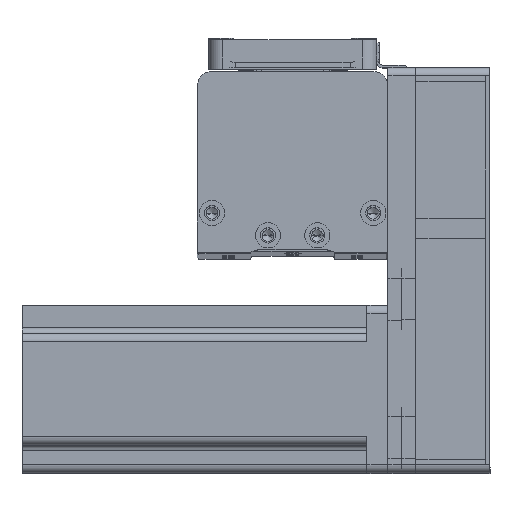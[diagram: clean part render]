
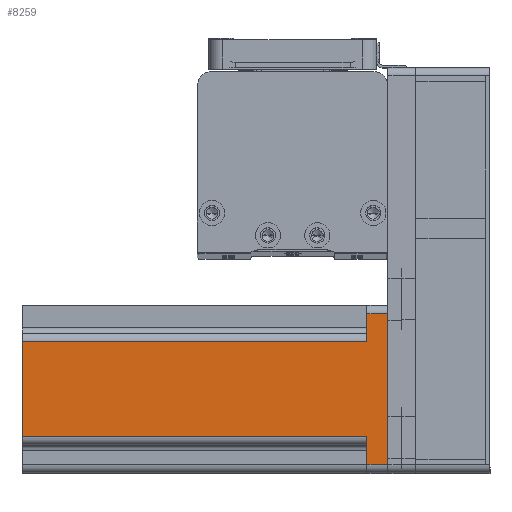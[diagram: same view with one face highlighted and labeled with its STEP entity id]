
A CAD part, top view. The second image highlights one B-rep face of the part: STEP entity #8259.
In plain terms, the highlighted planar face has unit normal (0, 0, 1) as drawn and (0, 1, 0) by its records, which use the part's own axes.
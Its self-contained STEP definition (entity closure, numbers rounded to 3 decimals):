
#736 = EDGE_CURVE ( 'NONE', #5225, #44007, #3263, .T. ) ;
#3176 = VECTOR ( 'NONE', #10888, 1000. ) ;
#3263 = LINE ( 'NONE', #30054, #32501 ) ;
#3769 = LINE ( 'NONE', #48532, #33022 ) ;
#5225 = VERTEX_POINT ( 'NONE', #7473 ) ;
#5614 = LINE ( 'NONE', #12578, #24699 ) ;
#6478 = ORIENTED_EDGE ( 'NONE', *, *, #48364, .T. ) ;
#7473 = CARTESIAN_POINT ( 'NONE',  ( -27., 30., 0. ) ) ;
#7821 = DIRECTION ( 'NONE',  ( 0., 0., -1. ) ) ;
#8222 = LINE ( 'NONE', #11162, #47522 ) ;
#8259 = ADVANCED_FACE ( 'NONE', ( #48008 ), #23995, .F. ) ;
#9244 = LINE ( 'NONE', #42071, #48569 ) ;
#9471 = EDGE_CURVE ( 'NONE', #44007, #26854, #3769, .T. ) ;
#10859 = CARTESIAN_POINT ( 'NONE',  ( -17., 30., 7.5 ) ) ;
#10888 = DIRECTION ( 'NONE',  ( 0., 0., -1. ) ) ;
#11162 = CARTESIAN_POINT ( 'NONE',  ( 20., 30., 7.5 ) ) ;
#11806 = DIRECTION ( 'NONE',  ( 0., 0., 1. ) ) ;
#12578 = CARTESIAN_POINT ( 'NONE',  ( 30., 30., 130.7 ) ) ;
#12854 = VECTOR ( 'NONE', #32135, 1000. ) ;
#14074 = LINE ( 'NONE', #32320, #12854 ) ;
#16246 = EDGE_CURVE ( 'NONE', #26854, #45468, #9244, .T. ) ;
#16459 = CARTESIAN_POINT ( 'NONE',  ( 30., 30., 130.7 ) ) ;
#18666 = LINE ( 'NONE', #45754, #37791 ) ;
#20311 = DIRECTION ( 'NONE',  ( 1., 0., 0. ) ) ;
#20939 = VERTEX_POINT ( 'NONE', #21149 ) ;
#21149 = CARTESIAN_POINT ( 'NONE',  ( 17., 30., 130.7 ) ) ;
#21912 = EDGE_LOOP ( 'NONE', ( #30886, #35141, #46441, #31529, #26194, #41440, #6478, #34864 ) ) ;
#22678 = EDGE_CURVE ( 'NONE', #20939, #45468, #5614, .T. ) ;
#22985 = CARTESIAN_POINT ( 'NONE',  ( 17., 30., 7.5 ) ) ;
#23019 = EDGE_CURVE ( 'NONE', #20939, #48136, #46089, .T. ) ;
#23144 = CARTESIAN_POINT ( 'NONE',  ( -27., 30., 7.5 ) ) ;
#23901 = CARTESIAN_POINT ( 'NONE',  ( 27., 30., 0. ) ) ;
#23995 = PLANE ( 'NONE',  #36164 ) ;
#24699 = VECTOR ( 'NONE', #46710, 1000. ) ;
#25720 = DIRECTION ( 'NONE',  ( 1., 0., 0. ) ) ;
#26023 = CARTESIAN_POINT ( 'NONE',  ( 17., 30., 130.7 ) ) ;
#26194 = ORIENTED_EDGE ( 'NONE', *, *, #39205, .F. ) ;
#26854 = VERTEX_POINT ( 'NONE', #10859 ) ;
#30054 = CARTESIAN_POINT ( 'NONE',  ( -27., 30., 130.7 ) ) ;
#30775 = DIRECTION ( 'NONE',  ( 0., 0., 1. ) ) ;
#30886 = ORIENTED_EDGE ( 'NONE', *, *, #9471, .T. ) ;
#30941 = VERTEX_POINT ( 'NONE', #23901 ) ;
#31529 = ORIENTED_EDGE ( 'NONE', *, *, #23019, .T. ) ;
#32135 = DIRECTION ( 'NONE',  ( -1., 0., 0. ) ) ;
#32320 = CARTESIAN_POINT ( 'NONE',  ( 30., 30., 0. ) ) ;
#32501 = VECTOR ( 'NONE', #11806, 1000. ) ;
#33022 = VECTOR ( 'NONE', #25720, 1000. ) ;
#34864 = ORIENTED_EDGE ( 'NONE', *, *, #736, .T. ) ;
#35028 = CARTESIAN_POINT ( 'NONE',  ( -17., 30., 130.7 ) ) ;
#35141 = ORIENTED_EDGE ( 'NONE', *, *, #16246, .T. ) ;
#36164 = AXIS2_PLACEMENT_3D ( 'NONE', #16459, #43122, #20311 ) ;
#37791 = VECTOR ( 'NONE', #7821, 1000. ) ;
#38485 = CARTESIAN_POINT ( 'NONE',  ( 27., 30., 7.5 ) ) ;
#39205 = EDGE_CURVE ( 'NONE', #41103, #48136, #8222, .T. ) ;
#41103 = VERTEX_POINT ( 'NONE', #38485 ) ;
#41440 = ORIENTED_EDGE ( 'NONE', *, *, #45952, .T. ) ;
#42071 = CARTESIAN_POINT ( 'NONE',  ( -17., 30., 130.7 ) ) ;
#43122 = DIRECTION ( 'NONE',  ( 0., -1., 0. ) ) ;
#44007 = VERTEX_POINT ( 'NONE', #23144 ) ;
#45468 = VERTEX_POINT ( 'NONE', #35028 ) ;
#45754 = CARTESIAN_POINT ( 'NONE',  ( 27., 30., 130.7 ) ) ;
#45952 = EDGE_CURVE ( 'NONE', #41103, #30941, #18666, .T. ) ;
#46089 = LINE ( 'NONE', #26023, #3176 ) ;
#46441 = ORIENTED_EDGE ( 'NONE', *, *, #22678, .F. ) ;
#46710 = DIRECTION ( 'NONE',  ( -1., 0., 0. ) ) ;
#47522 = VECTOR ( 'NONE', #49299, 1000. ) ;
#48008 = FACE_OUTER_BOUND ( 'NONE', #21912, .T. ) ;
#48136 = VERTEX_POINT ( 'NONE', #22985 ) ;
#48364 = EDGE_CURVE ( 'NONE', #30941, #5225, #14074, .T. ) ;
#48532 = CARTESIAN_POINT ( 'NONE',  ( -20., 30., 7.5 ) ) ;
#48569 = VECTOR ( 'NONE', #30775, 1000. ) ;
#49299 = DIRECTION ( 'NONE',  ( -1., 0., 0. ) ) ;
